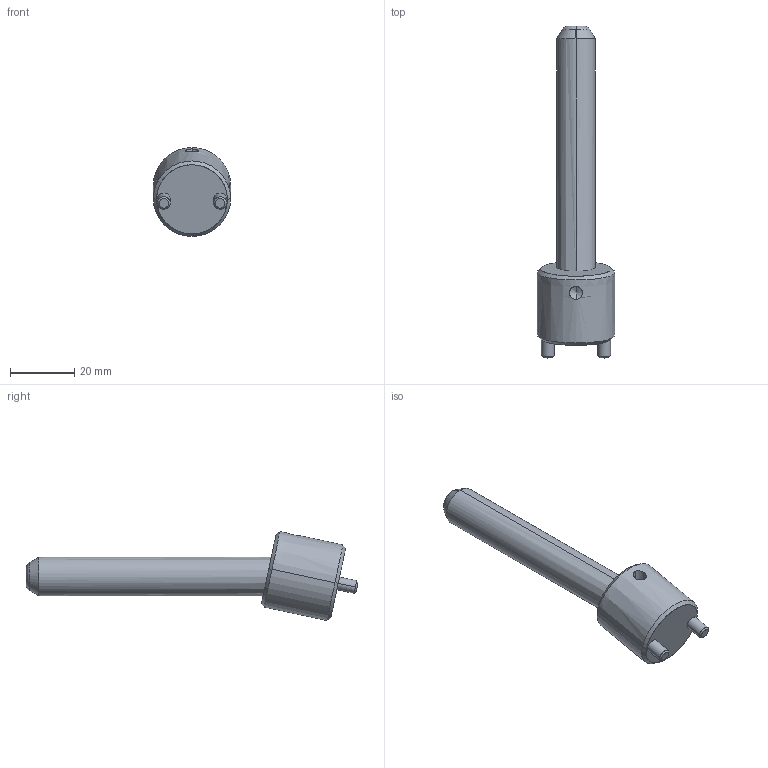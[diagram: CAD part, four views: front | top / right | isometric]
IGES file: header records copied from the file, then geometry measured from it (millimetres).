
Start section: START RECORD GO HERE.
Global section: file name: CI1212075.igs; native system: DASSAULT SYSTEMES CATIA V5 R20 - www.3ds.com; preprocessor: CATIA Version 5 Release 20 ; author: r.borello; organization: CFTORINO; date: 20190620.160332; units: millimetre
Bounding box: 24 x 103.22 x 27.63 mm (x, y, z)
Surface area: 7027.2 mm2 (no closed solid volume)
Topology: 0 solids, 0 shells, 39 faces, 162 edges, 160 vertices
Faces by surface type: revolution 32, plane 7
